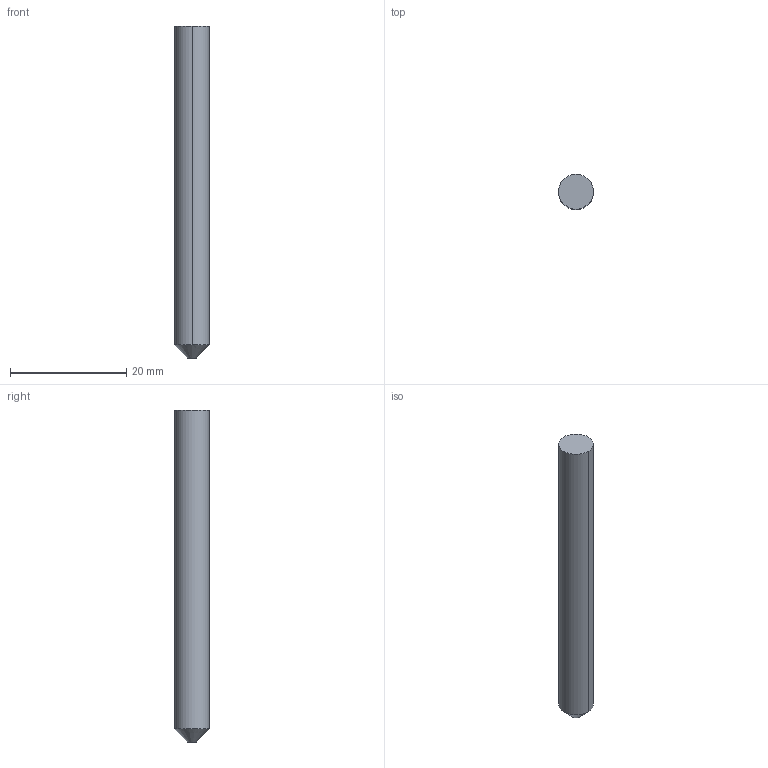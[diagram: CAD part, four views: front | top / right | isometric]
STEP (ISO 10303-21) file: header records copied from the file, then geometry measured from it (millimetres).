
FILE_DESCRIPTION((' '),'2;1');
FILE_NAME( '5HCM06003B.stp', '2026-01-21T09:08:57', (' '), ('--- Datakit www.datakit.com---'), ' Datakit CrossCadWare V2025.4 Sep 19 2025', 'Mastercam 2027', ' ');
FILE_SCHEMA(('AUTOMOTIVE_DESIGN { 1 0 10303 214 1 1 1 1 }'));
Length unit declared in the file: inch
Products named in the file (1): 5HCM06003B
Bounding box: 6 x 6 x 57 mm (x, y, z)
Volume: 1575.6 mm3; surface area: 1099.5 mm2
Topology: 1 solids, 1 shells, 8 faces, 14 edges, 8 vertices
Faces by surface type: cylinder 4, plane 2, cone 2
Entity records: 264 total; most frequent: DIRECTION 48, CARTESIAN_POINT 35, ORIENTED_EDGE 28, AXIS2_PLACEMENT_3D 21, EDGE_CURVE 14, VERTEX_POINT 8, CIRCLE 8, EDGE_LOOP 8
